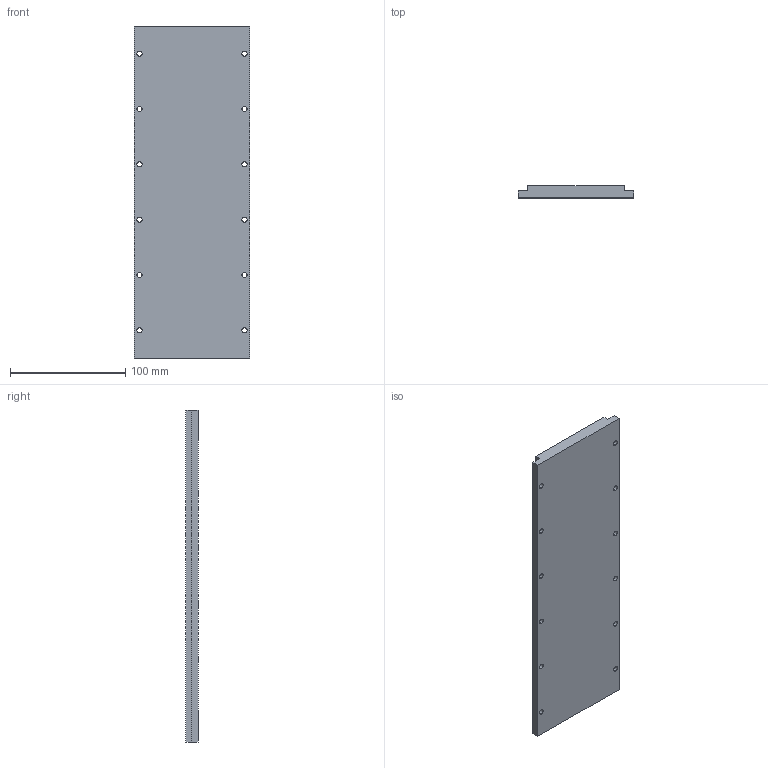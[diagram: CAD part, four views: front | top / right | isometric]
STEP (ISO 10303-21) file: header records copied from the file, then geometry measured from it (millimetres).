
FILE_DESCRIPTION (( 'STEP AP214' ), '1' );
FILE_NAME ('TLT-100-L288.STEP', '2022-04-13T09:28:36', ( 'Microsoft' ), ( 'Microsoft' ), 'SwSTEP 2.0', 'SolidWorks 2016', '' );
FILE_SCHEMA (( 'AUTOMOTIVE_DESIGN' ));
Length unit declared in the file: millimetre
Products named in the file (1): TLT-100-L288
Bounding box: 100 x 10.5 x 288 mm (x, y, z)
Volume: 279870.9 mm3; surface area: 66235.7 mm2
Topology: 1 solids, 1 shells, 34 faces, 96 edges, 64 vertices
Faces by surface type: cylinder 24, plane 10
Entity records: 1210 total; most frequent: DIRECTION 214, CARTESIAN_POINT 195, ORIENTED_EDGE 192, EDGE_CURVE 96, AXIS2_PLACEMENT_3D 83, VERTEX_POINT 64, EDGE_LOOP 58, CIRCLE 48
